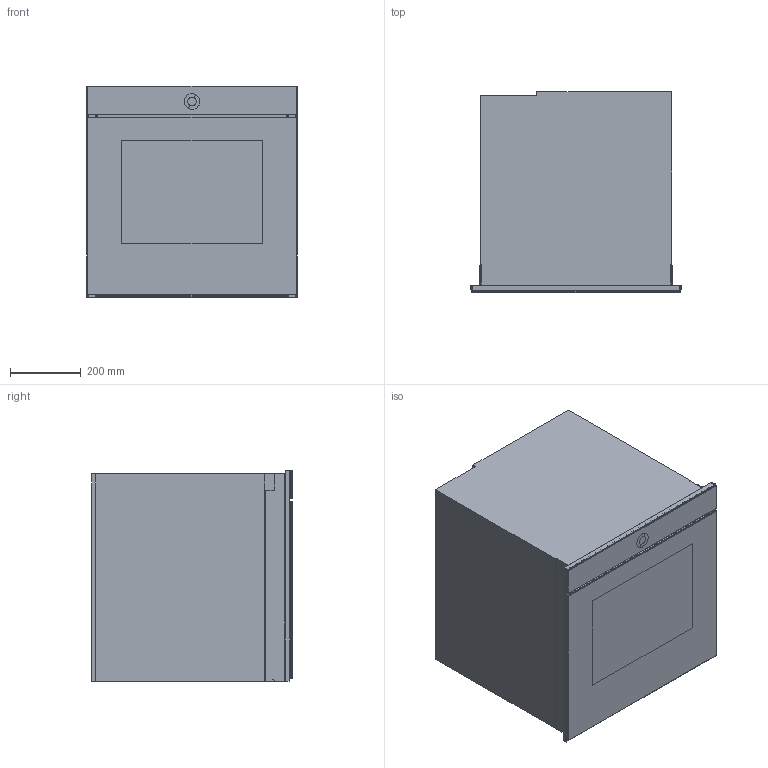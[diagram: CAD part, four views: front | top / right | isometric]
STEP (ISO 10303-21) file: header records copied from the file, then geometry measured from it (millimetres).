
FILE_DESCRIPTION(/* description */ (''),/* implementation_level */ '2;1');
FILE_NAME(/* name */ 'X2106800003',/* time_stamp */ '2020-10-15T17:52:37+02:00',/* author */ (''),/* organization */ (''),/* preprocessor_version */ 'ST-DEVELOPER v16.5',/* originating_system */ '',/* authorisation */ '');
FILE_SCHEMA (('AUTOMOTIVE_DESIGN'));
Length unit declared in the file: millimetre
Products named in the file (1): Document
Bounding box: 597 x 567.5 x 598.05 mm (x, y, z)
Volume: 169564925.4 mm3; surface area: 3788056.6 mm2
Topology: 11 solids, 11 shells, 296 faces, 723 edges, 434 vertices
Faces by surface type: plane 162, bspline 134
Entity records: 10808 total; most frequent: CARTESIAN_POINT 6222, ORIENTED_EDGE 1414, EDGE_CURVE 707, B_SPLINE_CURVE_WITH_KNOTS 499, VERTEX_POINT 434, EDGE_LOOP 303, ADVANCED_FACE 296, FACE_OUTER_BOUND 296
